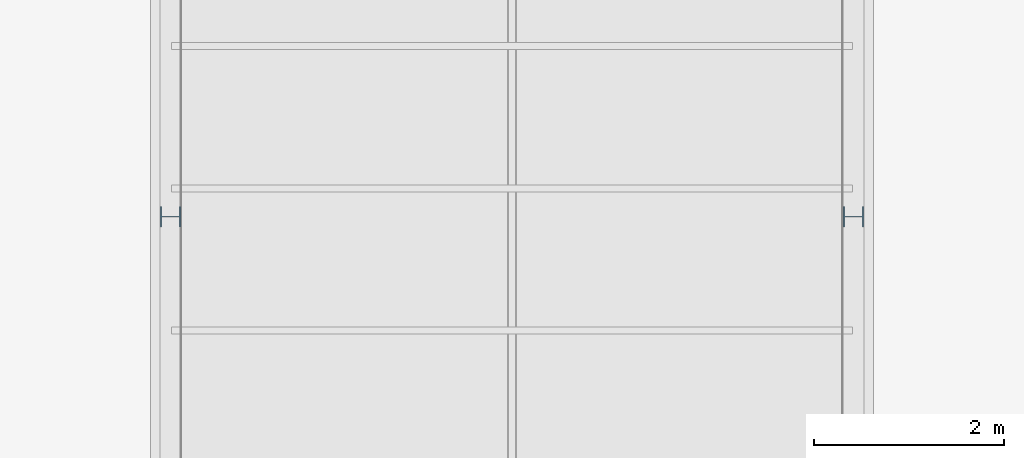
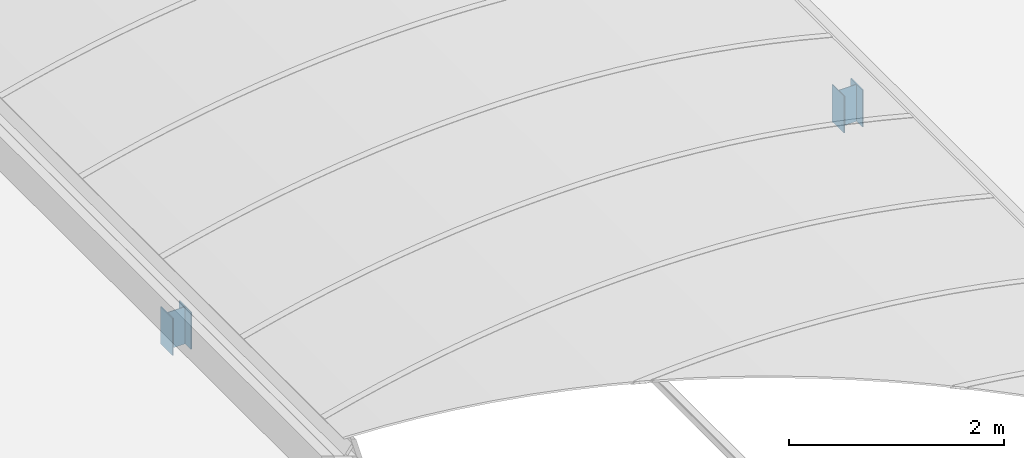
# One storey, part 20 of 81: 2 columns.
"""IFC2X3 building model written with IfcOpenShell, lengths in millimetres."""

from ifc_helpers import new_model, entity, si_unit, converted_unit, derived_unit, money_unit, direction, frame, origin_with_axes, place, context, subcontext, project, spatial, faceted_brep, material, type_object, element, save


model = new_model("IFC2X3")

# Units and contexts
model_context = context("Model", 3, precision=0.01, world=origin_with_axes(), true_north=direction((0.0, 1.0)))
body_context = subcontext(model_context, "Body", "Model", "MODEL_VIEW")
ifc_project = project(units=[si_unit("LENGTHUNIT", "METRE", prefix="MILLI"), si_unit("AREAUNIT", "SQUARE_METRE"), si_unit("VOLUMEUNIT", "CUBIC_METRE"), converted_unit("PLANEANGLEUNIT", "DEGREE", entity("IfcPlaneAngleMeasure", 0.0174532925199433), si_unit("PLANEANGLEUNIT", "RADIAN"), dimensions=[0, 0, 0, 0, 0, 0, 0]), money_unit("EUR"), converted_unit("TIMEUNIT", "Year", entity("IfcTimeMeasure", 31557600.0), si_unit("TIMEUNIT", "SECOND"), dimensions=[0, 0, 1, 0, 0, 0, 0]), si_unit("MASSUNIT", "GRAM", prefix="KILO"), si_unit("THERMODYNAMICTEMPERATUREUNIT", "DEGREE_CELSIUS"), si_unit("LUMINOUSINTENSITYUNIT", "LUMEN"), si_unit("ENERGYUNIT", "JOULE", prefix="MEGA"), derived_unit("THERMALCONDUCTANCEUNIT", [(si_unit("POWERUNIT", "WATT"), 1), (si_unit("LENGTHUNIT", "METRE"), -1), (si_unit("THERMODYNAMICTEMPERATUREUNIT", "KELVIN"), -1)]), derived_unit("SPECIFICHEATCAPACITYUNIT", [(si_unit("ENERGYUNIT", "JOULE"), 1), (si_unit("MASSUNIT", "GRAM", prefix="KILO"), -1), (si_unit("THERMODYNAMICTEMPERATUREUNIT", "KELVIN"), -1)]), derived_unit("MASSDENSITYUNIT", [(si_unit("MASSUNIT", "GRAM", prefix="KILO"), 1), (si_unit("VOLUMEUNIT", "CUBIC_METRE"), -1)])], contexts=[model_context])

# Site, building, storey
site_placement = place(None, origin_with_axes())
site = spatial("IfcSite", under=ifc_project, at=site_placement, Name="Site", CompositionType="ELEMENT")
building_placement = place(site_placement, origin_with_axes())
building = spatial("IfcBuilding", under=site, at=building_placement, Name="Naam gebouw", CompositionType="ELEMENT")
storey_placement = place(building_placement, frame((0.0, 0.0, 15320.0), z_axis=(0.0, 0.0, 1.0), x_axis=(1.0, 0.0, 0.0)))
storey = spatial("IfcBuildingStorey", under=building, at=storey_placement, Name="01 dak", CompositionType="ELEMENT", Elevation=15320.0)

# Columns
ifc_material = material(Name="Metaal - Staal C")
column_type = type_object("IfcColumnType", Name="HEA220 220 x 210", PredefinedType="COLUMN")
for number, where, z_axis, x_axis, name in (
    (1, (43300.00000000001, 51600.0, -70.00000000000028), (0.0, 0.0, 1.0), (-1.0, 0.0, 0.0), "HEA220"),
    (2, (50500.00000000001, 51600.0, -70.00000000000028), (0.0, 0.0, 1.0), (-1.0, 0.0, 0.0), "HEA220"),
):
    element("IfcColumn", number, at=place(storey_placement, frame(where, z_axis=z_axis, x_axis=x_axis)), inside=storey, type_object=column_type, material=ifc_material, Name=name, ObjectType="COLUMN", context=body_context, shape_type="Brep", body=[
        faceted_brep([(-104.9999999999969, -109.9999999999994, 419.9999999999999), (-104.9999999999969, -109.9999999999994, 0.0), (-94.0000000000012, -109.9999999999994, 0.0), (-94.0000000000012, -109.9999999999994, 419.9999999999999), (-104.9999999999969, 109.9999999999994, 419.9999999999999), (-104.9999999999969, 109.9999999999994, 0.0), (-94.0000000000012, 109.9999999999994, 0.0), (-94.0000000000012, 3.500000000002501, 0.0), (94.0000000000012, 3.500000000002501, 0.0), (94.0000000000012, 109.9999999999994, 0.0), (104.9999999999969, 109.9999999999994, 0.0), (104.9999999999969, -109.9999999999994, 0.0), (94.0000000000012, -109.9999999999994, 0.0), (94.0000000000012, -3.500000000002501, 0.0), (-94.0000000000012, -3.500000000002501, 0.0), (-94.0000000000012, -3.500000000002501, 419.9999999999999), (94.0000000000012, -3.500000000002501, 419.9999999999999), (94.0000000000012, -109.9999999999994, 419.9999999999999), (104.9999999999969, -109.9999999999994, 419.9999999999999), (104.9999999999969, 109.9999999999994, 419.9999999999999), (94.0000000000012, 109.9999999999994, 419.9999999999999), (94.0000000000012, 3.500000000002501, 419.9999999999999), (-94.0000000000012, 3.500000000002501, 419.9999999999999), (-94.0000000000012, 109.9999999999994, 419.9999999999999)], [[[0, 1, 2, 3]], [[4, 5, 1, 0]], [[2, 1, 5, 6, 7, 8, 9, 10, 11, 12, 13, 14]], [[3, 2, 14, 15]], [[4, 0, 3, 15, 16, 17, 18, 19, 20, 21, 22, 23]], [[23, 6, 5, 4]], [[22, 7, 6, 23]], [[21, 8, 7, 22]], [[20, 9, 8, 21]], [[19, 10, 9, 20]], [[18, 11, 10, 19]], [[17, 12, 11, 18]], [[16, 13, 12, 17]], [[15, 14, 13, 16]]]),
    ])

save(model, "model.ifc")
